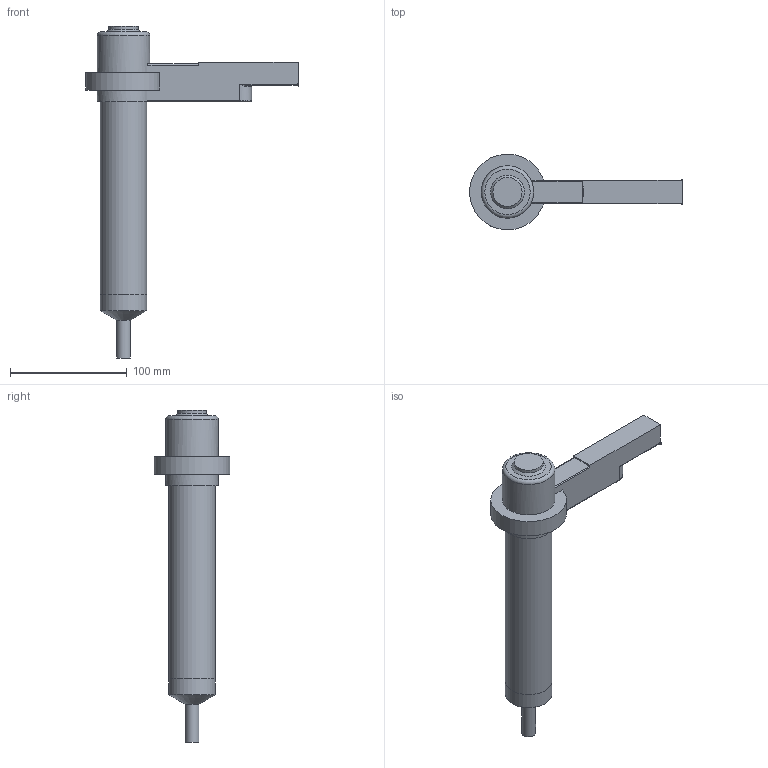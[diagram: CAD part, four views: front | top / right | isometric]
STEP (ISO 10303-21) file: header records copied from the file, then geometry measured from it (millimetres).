
FILE_DESCRIPTION(('STEP AP214'),'1');
FILE_NAME('D:/Trabalho/000_BICOS_SIMPLES/YUDO CZEK/45-2011/REV0/BLS25TLC200_G2_SR0_cut-out.step','2011-03-23T11:47:14',(' '),(' '),'Spatial InterOp 3D',' ',' ');
FILE_SCHEMA(('automotive_design'));
Length unit declared in the file: millimetre
Products named in the file (1): _132
Bounding box: 182.38 x 64.89 x 285 mm (x, y, z)
Volume: 428522.3 mm3; surface area: 51912.5 mm2
Topology: 1 solids, 1 shells, 42 faces, 101 edges, 62 vertices
Faces by surface type: cylinder 17, plane 13, torus 7, bspline 3, cone 2
Full cylindrical faces by diameter (mm): 12 x1, 25 x1, 40 x2, 44.998 x1
Entity records: 1978 total; most frequent: CARTESIAN_POINT 719, DIRECTION 191, ORIENTED_EDGE 176, EDGE_CURVE 88, AXIS2_PLACEMENT_3D 78, VERTEX_POINT 59, EDGE_LOOP 53, FACE_OUTER_BOUND 48
